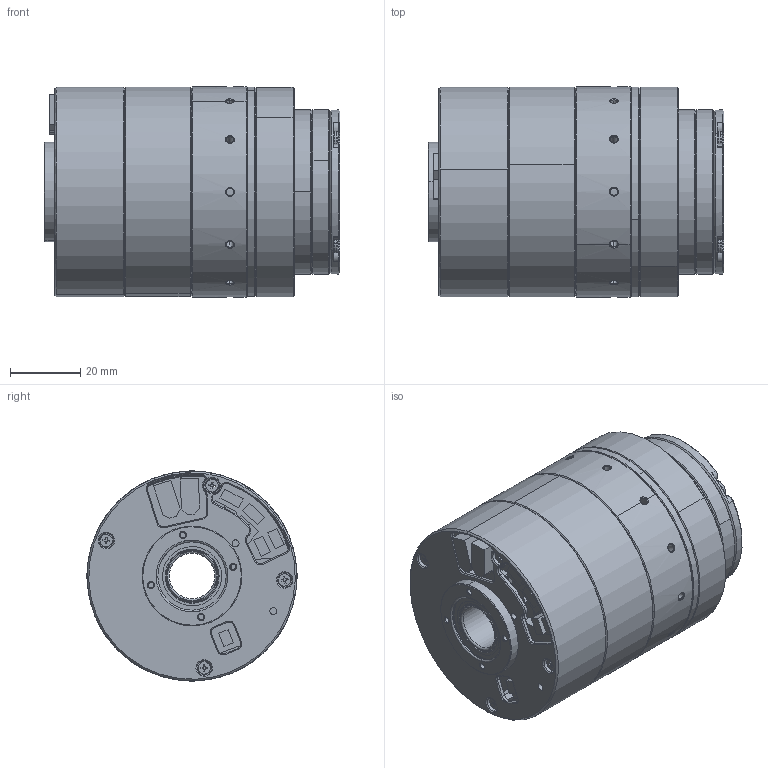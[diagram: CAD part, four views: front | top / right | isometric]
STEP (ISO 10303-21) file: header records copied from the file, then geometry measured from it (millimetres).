
FILE_DESCRIPTION (( 'STEP AP203' ), '1' );
FILE_NAME ('CRA-RI50-60-PRO-XX-B-2E-EC.STEP', '2024-08-26T06:05:17', ( '' ), ( '' ), 'SwSTEP 2.0', 'SolidWorks 2021', '' );
FILE_SCHEMA (( 'CONFIG_CONTROL_DESIGN' ));
Length unit declared in the file: millimetre
Products named in the file (1): CRA-RI50-60-PRO-XX-B-2E-EC
Bounding box: 84.5 x 60 x 60 mm (x, y, z)
Surface area: 39116.2 mm2 (no closed solid volume)
Topology: 0 solids, 73 shells, 924 faces, 3383 edges, 2465 vertices
Faces by surface type: plane 362, cylinder 285, cone 229, torus 48
Entity records: 39390 total; most frequent: CARTESIAN_POINT 10485, DIRECTION 6271, ORIENTED_EDGE 5165, EDGE_CURVE 3375, VERTEX_POINT 2465, AXIS2_PLACEMENT_3D 2271, LINE 1729, VECTOR 1729
